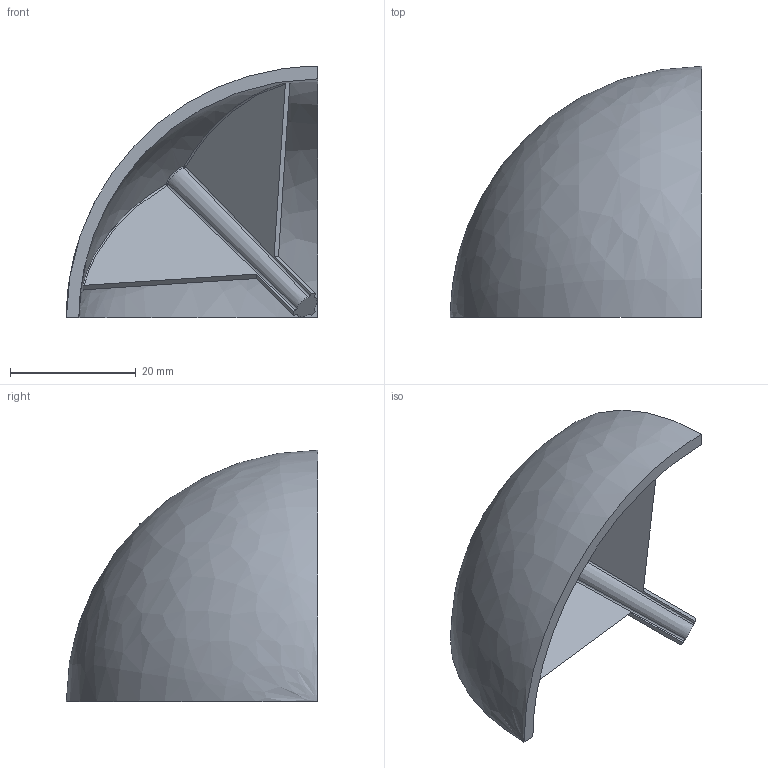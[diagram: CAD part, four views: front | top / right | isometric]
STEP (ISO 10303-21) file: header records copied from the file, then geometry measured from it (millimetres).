
FILE_DESCRIPTION (( 'STEP AP203' ), '1' );
FILE_NAME ('ECR0840-8.STEP', '2024-02-19T06:00:27', ( '' ), ( '' ), 'SwSTEP 2.0', 'SolidWorks 2022', '' );
FILE_SCHEMA (( 'CONFIG_CONTROL_DESIGN' ));
Length unit declared in the file: millimetre
Products named in the file (1): ECR0840-8
Bounding box: 40 x 40 x 40 mm (x, y, z)
Volume: 6415 mm3; surface area: 7643 mm2
Topology: 1 solids, 1 shells, 43 faces, 110 edges, 68 vertices
Faces by surface type: bspline 23, plane 16, cone 4
Entity records: 2436 total; most frequent: CARTESIAN_POINT 1531, ORIENTED_EDGE 216, EDGE_CURVE 108, DIRECTION 106, VERTEX_POINT 68, B_SPLINE_CURVE_WITH_KNOTS 62, EDGE_LOOP 44, ADVANCED_FACE 43
